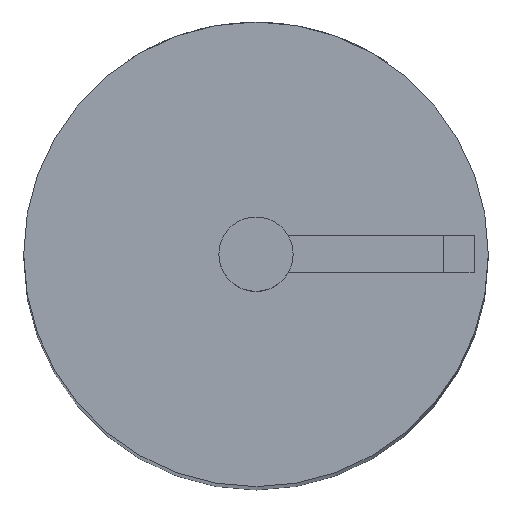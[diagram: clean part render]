
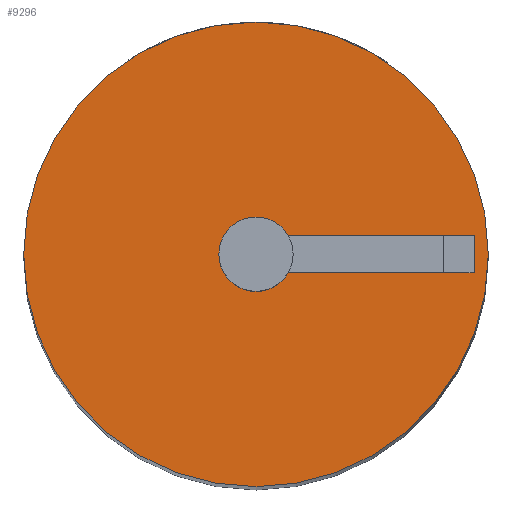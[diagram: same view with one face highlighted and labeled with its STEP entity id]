
A CAD part, top view. The second image highlights one B-rep face of the part: STEP entity #9296.
In plain terms, the highlighted planar face has unit normal (0, 0, 1).
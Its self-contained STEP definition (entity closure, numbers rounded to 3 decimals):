
#1889=CARTESIAN_POINT('',(0.,0.,102.5));
#1890=DIRECTION('',(0.,0.,1.));
#1891=DIRECTION('',(1.,0.,0.));
#1892=AXIS2_PLACEMENT_3D('',#1889,#1890,#1891);
#1894=CARTESIAN_POINT('',(0.,0.,102.5));
#1895=DIRECTION('',(0.,0.,1.));
#1896=DIRECTION('',(-1.,0.,0.));
#1897=AXIS2_PLACEMENT_3D('',#1894,#1895,#1896);
#1899=CARTESIAN_POINT('',(0.,0.,102.5));
#1900=DIRECTION('',(0.,0.,1.));
#1901=DIRECTION('',(1.,0.,0.));
#1902=AXIS2_PLACEMENT_3D('',#1899,#1900,#1901);
#1904=CARTESIAN_POINT('',(0.,0.,102.5));
#1905=DIRECTION('',(0.,0.,1.));
#1906=DIRECTION('',(-1.,0.,0.));
#1907=AXIS2_PLACEMENT_3D('',#1904,#1905,#1906);
#1909=DIRECTION('',(1.,0.,0.));
#1910=VECTOR('',#1909,17.161);
#1911=CARTESIAN_POINT('',(6.304,-2.,102.5));
#1912=LINE('',#1911,#1910);
#1913=DIRECTION('',(0.,1.,0.));
#1914=VECTOR('',#1913,4.);
#1915=CARTESIAN_POINT('',(23.465,-2.,102.5));
#1916=LINE('',#1915,#1914);
#1917=DIRECTION('',(1.,0.,0.));
#1918=VECTOR('',#1917,17.161);
#1919=CARTESIAN_POINT('',(6.304,2.,102.5));
#1920=LINE('',#1919,#1918);
#1921=DIRECTION('',(0.,1.,0.));
#1922=VECTOR('',#1921,4.);
#1923=CARTESIAN_POINT('',(6.304,-2.,102.5));
#1924=LINE('',#1923,#1922);
#7313=CARTESIAN_POINT('',(25.,0.,102.5));
#7314=CARTESIAN_POINT('',(-25.,0.,102.5));
#7315=VERTEX_POINT('',#7313);
#7316=VERTEX_POINT('',#7314);
#7321=CARTESIAN_POINT('',(4.,0.,102.5));
#7322=CARTESIAN_POINT('',(-4.,0.,102.5));
#7323=VERTEX_POINT('',#7321);
#7324=VERTEX_POINT('',#7322);
#7341=CARTESIAN_POINT('',(6.304,-2.,102.5));
#7342=CARTESIAN_POINT('',(23.465,-2.,102.5));
#7343=VERTEX_POINT('',#7341);
#7344=VERTEX_POINT('',#7342);
#7345=CARTESIAN_POINT('',(6.304,2.,102.5));
#7346=CARTESIAN_POINT('',(23.465,2.,102.5));
#7347=VERTEX_POINT('',#7345);
#7348=VERTEX_POINT('',#7346);
#9271=CARTESIAN_POINT('',(0.,0.,102.5));
#9272=DIRECTION('',(0.,0.,1.));
#9273=DIRECTION('',(1.,0.,0.));
#9274=AXIS2_PLACEMENT_3D('',#9271,#9272,#9273);
#9275=PLANE('',#9274);
#9276=ORIENTED_EDGE('',*,*,#8417,.F.);
#9277=ORIENTED_EDGE('',*,*,#9265,.F.);
#9278=EDGE_LOOP('',(#9276,#9277));
#9279=FACE_OUTER_BOUND('',#9278,.F.);
#9281=ORIENTED_EDGE('',*,*,#9280,.T.);
#9283=ORIENTED_EDGE('',*,*,#9282,.T.);
#9284=EDGE_LOOP('',(#9281,#9283));
#9285=FACE_BOUND('',#9284,.F.);
#9287=ORIENTED_EDGE('',*,*,#9286,.T.);
#9289=ORIENTED_EDGE('',*,*,#9288,.T.);
#9291=ORIENTED_EDGE('',*,*,#9290,.F.);
#9293=ORIENTED_EDGE('',*,*,#9292,.F.);
#9294=EDGE_LOOP('',(#9287,#9289,#9291,#9293));
#9295=FACE_BOUND('',#9294,.F.);
#9296=ADVANCED_FACE('',(#9279,#9285,#9295),#9275,.T.);
#1893=CIRCLE('',#1892,25.);
#1898=CIRCLE('',#1897,25.);
#1903=CIRCLE('',#1902,4.);
#1908=CIRCLE('',#1907,4.);
#8417=EDGE_CURVE('',#7315,#7316,#1893,.T.);
#9265=EDGE_CURVE('',#7316,#7315,#1898,.T.);
#9280=EDGE_CURVE('',#7323,#7324,#1903,.T.);
#9282=EDGE_CURVE('',#7324,#7323,#1908,.T.);
#9286=EDGE_CURVE('',#7343,#7344,#1912,.T.);
#9288=EDGE_CURVE('',#7344,#7348,#1916,.T.);
#9290=EDGE_CURVE('',#7347,#7348,#1920,.T.);
#9292=EDGE_CURVE('',#7343,#7347,#1924,.T.);
